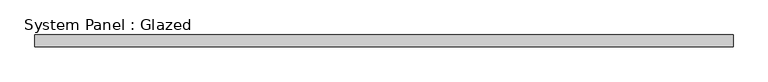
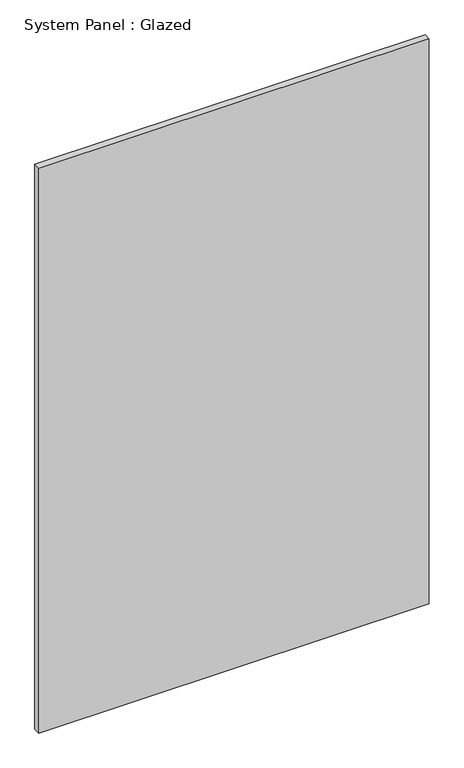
"""IFC4 building model written with IfcOpenShell, lengths in millimetres: plate geometry, System Panel : Glazed."""

from ifc_helpers import new_model, si_unit, origin, origin_with_axes, place, context, project, spatial, polyline, outline, extrude, source, transform, mapped, element, save


def system_panel_glazed_228430bb(model_context):
    return source(origin(), model_context, "Body", "SweptSolid", [
        extrude(outline(polyline([(747.9681587, -12.7), (-747.9681587, -12.7), (-747.9681587, 12.7), (747.9681587, 12.7), (747.9681587, -12.7)])), origin_with_axes(), (0.0, 0.0, 1.0), 2287.6010357),
    ])


if __name__ == "__main__":
    model = new_model("IFC4")
    model_context = context("Model", 3, world=origin())
    ifc_project = project(units=[si_unit("LENGTHUNIT", "METRE", prefix="MILLI")], contexts=[model_context])
    site = spatial("IfcSite", under=ifc_project)
    building = spatial("IfcBuilding", under=site)
    placement = place(None, origin())
    system_panel_glazed_shape = system_panel_glazed_228430bb(model_context)
    element("IfcPlate", 1, ObjectType="System Panel : Glazed", at=placement, inside=building, context=model_context, shape_type="MappedRepresentation", body=[
        mapped(system_panel_glazed_shape, transform((0.0, 0.0, 0.0), x_axis=(1.0, 0.0, 0.0), y_axis=(0.0, 1.0, 0.0), z_axis=(0.0, 0.0, 1.0))),
    ])
    save(model, "model.ifc")
